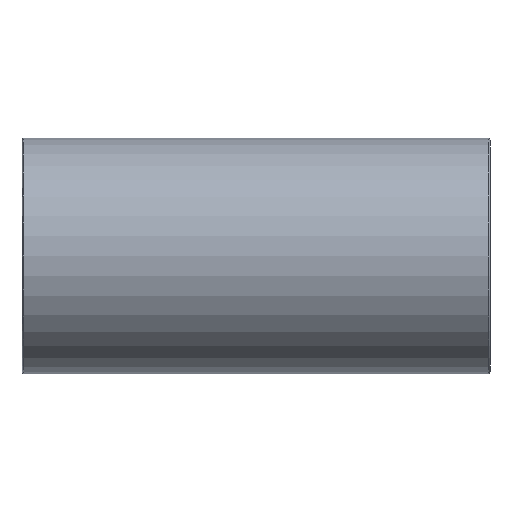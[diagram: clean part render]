
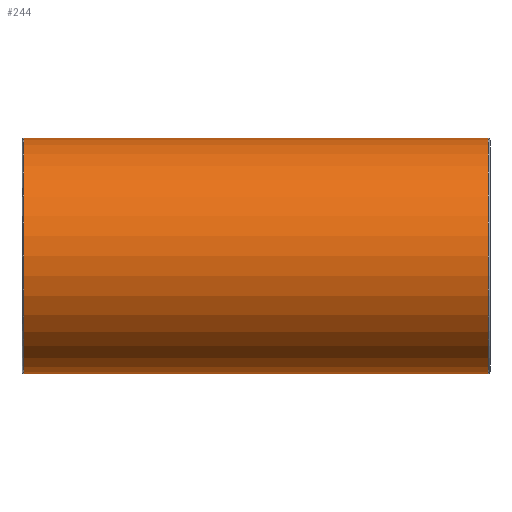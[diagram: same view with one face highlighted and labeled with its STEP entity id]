
A CAD part, front view. The second image highlights one B-rep face of the part: STEP entity #244.
In plain terms, the highlighted cylindrical face has radius 36.5 mm (diameter 73 mm), a full revolution.
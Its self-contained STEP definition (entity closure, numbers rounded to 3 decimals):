
#28=ELLIPSE('',#270,51.619,36.5);
#29=ELLIPSE('',#271,51.619,36.5);
#32=FACE_BOUND('',#77,.T.);
#33=FACE_BOUND('',#78,.T.);
#55=FACE_OUTER_BOUND('',#76,.T.);
#76=EDGE_LOOP('',(#188));
#77=EDGE_LOOP('',(#189));
#78=EDGE_LOOP('',(#190,#191));
#120=CIRCLE('',#268,36.5);
#121=CIRCLE('',#269,36.5);
#140=VERTEX_POINT('',#406);
#141=VERTEX_POINT('',#408);
#142=VERTEX_POINT('',#410);
#143=VERTEX_POINT('',#411);
#164=EDGE_CURVE('',#140,#140,#120,.T.);
#165=EDGE_CURVE('',#141,#141,#121,.T.);
#166=EDGE_CURVE('',#142,#143,#28,.T.);
#167=EDGE_CURVE('',#143,#142,#29,.T.);
#188=ORIENTED_EDGE('',*,*,#164,.F.);
#189=ORIENTED_EDGE('',*,*,#165,.F.);
#190=ORIENTED_EDGE('',*,*,#166,.F.);
#191=ORIENTED_EDGE('',*,*,#167,.F.);
#236=CYLINDRICAL_SURFACE('',#267,36.5);
#244=ADVANCED_FACE('',(#55,#32,#33),#236,.T.);
#267=AXIS2_PLACEMENT_3D('',#405,#314,#315);
#268=AXIS2_PLACEMENT_3D('',#407,#316,#317);
#269=AXIS2_PLACEMENT_3D('',#409,#318,#319);
#270=AXIS2_PLACEMENT_3D('',#412,#320,#321);
#271=AXIS2_PLACEMENT_3D('',#413,#322,#323);
#314=DIRECTION('center_axis',(1.,0.,0.));
#315=DIRECTION('ref_axis',(0.,1.,0.));
#316=DIRECTION('center_axis',(-1.,0.,0.));
#317=DIRECTION('ref_axis',(0.,-1.,0.));
#318=DIRECTION('center_axis',(1.,0.,0.));
#319=DIRECTION('ref_axis',(0.,-1.,0.));
#320=DIRECTION('center_axis',(-0.707,0.707,0.));
#321=DIRECTION('ref_axis',(0.707,0.707,0.));
#322=DIRECTION('center_axis',(0.707,0.707,0.));
#323=DIRECTION('ref_axis',(-0.707,0.707,0.));
#405=CARTESIAN_POINT('Origin',(0.,0.,
0.));
#406=CARTESIAN_POINT('',(-71.933,36.5,0.));
#407=CARTESIAN_POINT('Origin',(-71.933,0.,0.));
#408=CARTESIAN_POINT('',(71.933,36.5,0.));
#409=CARTESIAN_POINT('Origin',(71.933,0.,0.));
#410=CARTESIAN_POINT('',(0.,0.,36.5));
#411=CARTESIAN_POINT('',(0.,0.,-36.5));
#412=CARTESIAN_POINT('Origin',(0.,0.,
0.));
#413=CARTESIAN_POINT('Origin',(0.,0.,0.));
